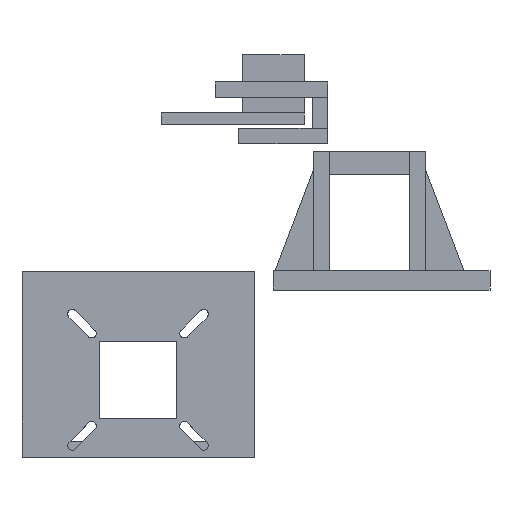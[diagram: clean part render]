
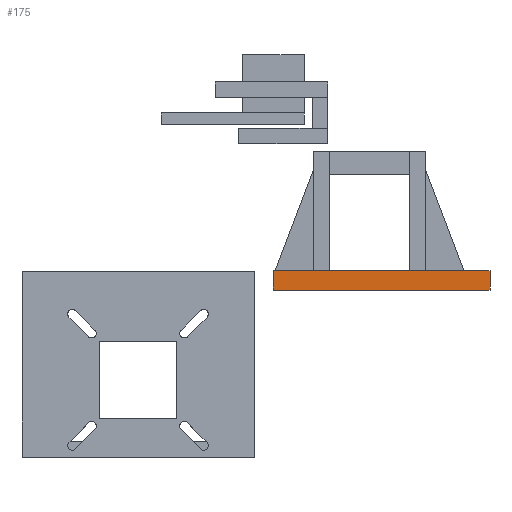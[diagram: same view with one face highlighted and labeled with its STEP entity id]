
A CAD part, front view. The second image highlights one B-rep face of the part: STEP entity #175.
In plain terms, the highlighted planar face has unit normal (0, -1, 0).
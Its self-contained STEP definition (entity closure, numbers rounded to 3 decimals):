
#59 = EDGE_CURVE('',#60,#62,#64,.T.);
#60 = VERTEX_POINT('',#61);
#61 = CARTESIAN_POINT('',(145.,158.,283.2));
#62 = VERTEX_POINT('',#63);
#63 = CARTESIAN_POINT('',(145.,158.,288.2));
#64 = SURFACE_CURVE('',#65,(#69,#81),.PCURVE_S1.);
#65 = LINE('',#66,#67);
#66 = CARTESIAN_POINT('',(145.,158.,283.2));
#67 = VECTOR('',#68,1.);
#68 = DIRECTION('',(0.,0.,1.));
#69 = PCURVE('',#70,#75);
#70 = PLANE('',#71);
#71 = AXIS2_PLACEMENT_3D('',#72,#73,#74);
#72 = CARTESIAN_POINT('',(145.,158.,283.2));
#73 = DIRECTION('',(1.,0.,0.));
#74 = DIRECTION('',(0.,0.,1.));
#75 = DEFINITIONAL_REPRESENTATION('',(#76),#80);
#76 = LINE('',#77,#78);
#77 = CARTESIAN_POINT('',(0.,0.));
#78 = VECTOR('',#79,1.);
#79 = DIRECTION('',(1.,0.));
#80 = ( GEOMETRIC_REPRESENTATION_CONTEXT(2) 
PARAMETRIC_REPRESENTATION_CONTEXT() REPRESENTATION_CONTEXT('2D SPACE',''
  ) );
#81 = PCURVE('',#82,#87);
#82 = PLANE('',#83);
#83 = AXIS2_PLACEMENT_3D('',#84,#85,#86);
#84 = CARTESIAN_POINT('',(145.,158.,283.2));
#85 = DIRECTION('',(0.,1.,0.));
#86 = DIRECTION('',(0.,0.,1.));
#87 = DEFINITIONAL_REPRESENTATION('',(#88),#92);
#88 = LINE('',#89,#90);
#89 = CARTESIAN_POINT('',(0.,0.));
#90 = VECTOR('',#91,1.);
#91 = DIRECTION('',(1.,0.));
#92 = ( GEOMETRIC_REPRESENTATION_CONTEXT(2) 
PARAMETRIC_REPRESENTATION_CONTEXT() REPRESENTATION_CONTEXT('2D SPACE',''
  ) );
#110 = PLANE('',#111);
#111 = AXIS2_PLACEMENT_3D('',#112,#113,#114);
#112 = CARTESIAN_POINT('',(145.,158.,283.2));
#113 = DIRECTION('',(0.,0.,1.));
#114 = DIRECTION('',(1.,0.,0.));
#164 = PLANE('',#165);
#165 = AXIS2_PLACEMENT_3D('',#166,#167,#168);
#166 = CARTESIAN_POINT('',(145.,158.,288.2));
#167 = DIRECTION('',(0.,0.,1.));
#168 = DIRECTION('',(1.,0.,0.));
#175 = ADVANCED_FACE('',(#176),#82,.F.);
#176 = FACE_BOUND('',#177,.F.);
#177 = EDGE_LOOP('',(#178,#201,#202,#225));
#178 = ORIENTED_EDGE('',*,*,#179,.F.);
#179 = EDGE_CURVE('',#60,#180,#182,.T.);
#180 = VERTEX_POINT('',#181);
#181 = CARTESIAN_POINT('',(201.,158.,283.2));
#182 = SURFACE_CURVE('',#183,(#187,#194),.PCURVE_S1.);
#183 = LINE('',#184,#185);
#184 = CARTESIAN_POINT('',(145.,158.,283.2));
#185 = VECTOR('',#186,1.);
#186 = DIRECTION('',(1.,0.,0.));
#187 = PCURVE('',#82,#188);
#188 = DEFINITIONAL_REPRESENTATION('',(#189),#193);
#189 = LINE('',#190,#191);
#190 = CARTESIAN_POINT('',(0.,0.));
#191 = VECTOR('',#192,1.);
#192 = DIRECTION('',(0.,1.));
#193 = ( GEOMETRIC_REPRESENTATION_CONTEXT(2) 
PARAMETRIC_REPRESENTATION_CONTEXT() REPRESENTATION_CONTEXT('2D SPACE',''
  ) );
#194 = PCURVE('',#110,#195);
#195 = DEFINITIONAL_REPRESENTATION('',(#196),#200);
#196 = LINE('',#197,#198);
#197 = CARTESIAN_POINT('',(0.,0.));
#198 = VECTOR('',#199,1.);
#199 = DIRECTION('',(1.,0.));
#200 = ( GEOMETRIC_REPRESENTATION_CONTEXT(2) 
PARAMETRIC_REPRESENTATION_CONTEXT() REPRESENTATION_CONTEXT('2D SPACE',''
  ) );
#201 = ORIENTED_EDGE('',*,*,#59,.T.);
#202 = ORIENTED_EDGE('',*,*,#203,.T.);
#203 = EDGE_CURVE('',#62,#204,#206,.T.);
#204 = VERTEX_POINT('',#205);
#205 = CARTESIAN_POINT('',(201.,158.,288.2));
#206 = SURFACE_CURVE('',#207,(#211,#218),.PCURVE_S1.);
#207 = LINE('',#208,#209);
#208 = CARTESIAN_POINT('',(145.,158.,288.2));
#209 = VECTOR('',#210,1.);
#210 = DIRECTION('',(1.,0.,0.));
#211 = PCURVE('',#82,#212);
#212 = DEFINITIONAL_REPRESENTATION('',(#213),#217);
#213 = LINE('',#214,#215);
#214 = CARTESIAN_POINT('',(5.,0.));
#215 = VECTOR('',#216,1.);
#216 = DIRECTION('',(0.,1.));
#217 = ( GEOMETRIC_REPRESENTATION_CONTEXT(2) 
PARAMETRIC_REPRESENTATION_CONTEXT() REPRESENTATION_CONTEXT('2D SPACE',''
  ) );
#218 = PCURVE('',#164,#219);
#219 = DEFINITIONAL_REPRESENTATION('',(#220),#224);
#220 = LINE('',#221,#222);
#221 = CARTESIAN_POINT('',(0.,0.));
#222 = VECTOR('',#223,1.);
#223 = DIRECTION('',(1.,0.));
#224 = ( GEOMETRIC_REPRESENTATION_CONTEXT(2) 
PARAMETRIC_REPRESENTATION_CONTEXT() REPRESENTATION_CONTEXT('2D SPACE',''
  ) );
#225 = ORIENTED_EDGE('',*,*,#226,.F.);
#226 = EDGE_CURVE('',#180,#204,#227,.T.);
#227 = SURFACE_CURVE('',#228,(#232,#239),.PCURVE_S1.);
#228 = LINE('',#229,#230);
#229 = CARTESIAN_POINT('',(201.,158.,283.2));
#230 = VECTOR('',#231,1.);
#231 = DIRECTION('',(0.,0.,1.));
#232 = PCURVE('',#82,#233);
#233 = DEFINITIONAL_REPRESENTATION('',(#234),#238);
#234 = LINE('',#235,#236);
#235 = CARTESIAN_POINT('',(0.,56.));
#236 = VECTOR('',#237,1.);
#237 = DIRECTION('',(1.,0.));
#238 = ( GEOMETRIC_REPRESENTATION_CONTEXT(2) 
PARAMETRIC_REPRESENTATION_CONTEXT() REPRESENTATION_CONTEXT('2D SPACE',''
  ) );
#239 = PCURVE('',#240,#245);
#240 = PLANE('',#241);
#241 = AXIS2_PLACEMENT_3D('',#242,#243,#244);
#242 = CARTESIAN_POINT('',(201.,158.,283.2));
#243 = DIRECTION('',(1.,0.,0.));
#244 = DIRECTION('',(0.,0.,1.));
#245 = DEFINITIONAL_REPRESENTATION('',(#246),#250);
#246 = LINE('',#247,#248);
#247 = CARTESIAN_POINT('',(0.,0.));
#248 = VECTOR('',#249,1.);
#249 = DIRECTION('',(1.,0.));
#250 = ( GEOMETRIC_REPRESENTATION_CONTEXT(2) 
PARAMETRIC_REPRESENTATION_CONTEXT() REPRESENTATION_CONTEXT('2D SPACE',''
  ) );
